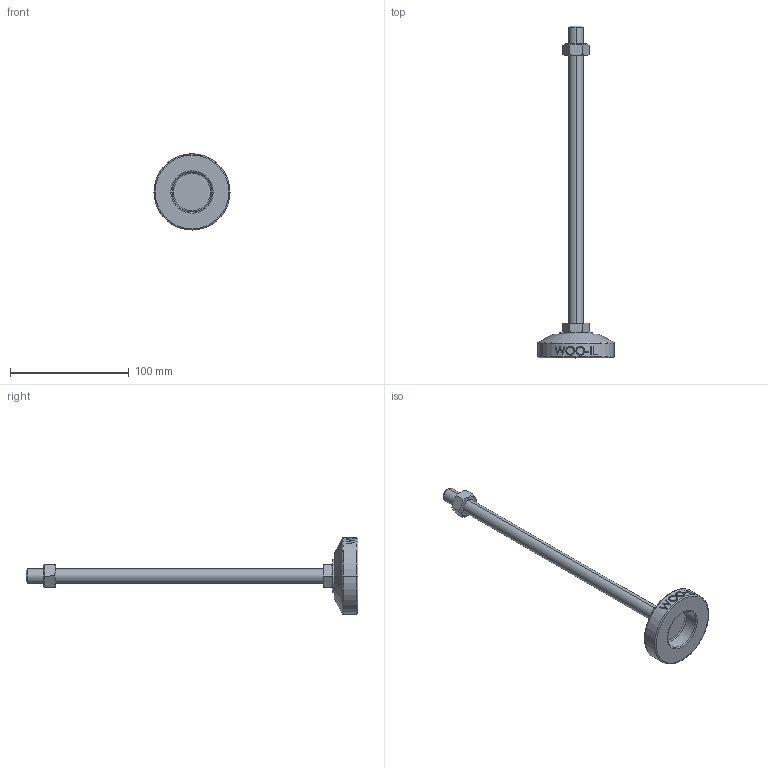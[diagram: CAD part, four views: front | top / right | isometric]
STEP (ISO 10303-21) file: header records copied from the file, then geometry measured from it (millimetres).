
FILE_DESCRIPTION (( 'STEP AP214' ), '1' );
FILE_NAME ('MFZ64-M12-250.step', '2021-01-15T07:05:38', ( '' ), ( '' ), 'SwSTEP 2.0', 'SolidWorks 2019', '' );
FILE_SCHEMA (( 'AUTOMOTIVE_DESIGN' ));
Length unit declared in the file: millimetre
Products named in the file (2): MFZ64-M12-250
Bounding box: 64 x 279 x 64 mm (x, y, z)
Volume: 78320.1 mm3; surface area: 22433.6 mm2
Topology: 3 solids, 3 shells, 106 faces, 243 edges, 154 vertices
Faces by surface type: plane 48, cylinder 18, bspline 16, cone 14, torus 10
Entity records: 4520 total; most frequent: CARTESIAN_POINT 2177, ORIENTED_EDGE 486, DIRECTION 439, EDGE_CURVE 243, AXIS2_PLACEMENT_3D 170, VERTEX_POINT 154, EDGE_LOOP 119, ADVANCED_FACE 106
